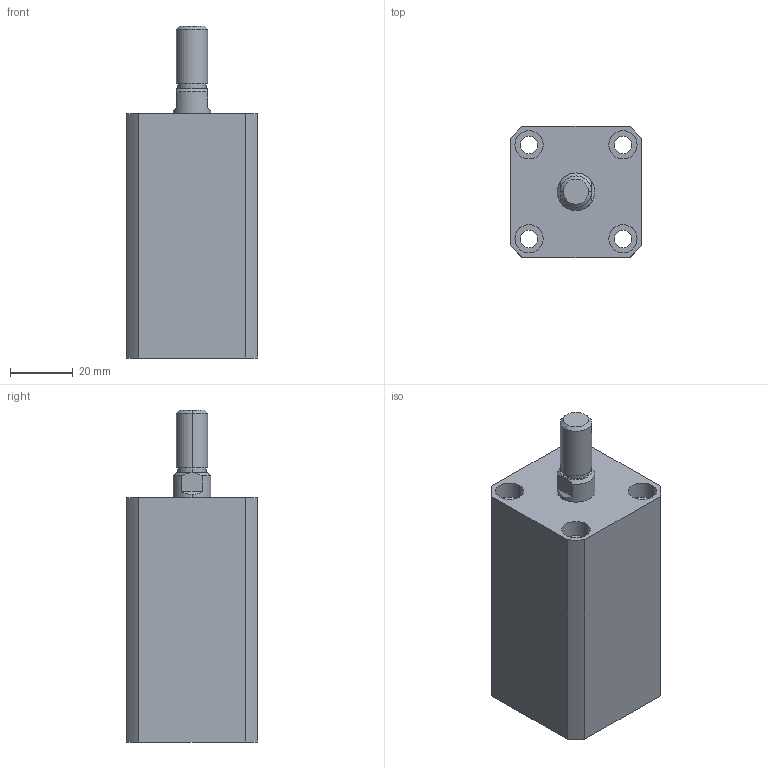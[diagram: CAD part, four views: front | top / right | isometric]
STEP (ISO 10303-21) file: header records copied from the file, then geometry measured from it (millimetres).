
FILE_DESCRIPTION (( 'STEP AP203' ), '1' );
FILE_NAME ('HTB-SDMB20-35W.STEP', '2019-10-08T11:56:20', ( '微软用户' ), ( '微软中国' ), 'SwSTEP 2.0', 'SolidWorks 2012', '' );
FILE_SCHEMA (( 'CONFIG_CONTROL_DESIGN' ));
Length unit declared in the file: millimetre
Products named in the file (3): HTB-SDMB20-35W活塞杆; HTB-SDMB20-35W; HTB-SDMB20-35掛极
Assembly tree (2 placements, depth 2):
  HTB-SDMB20-35W
    HTB-SDMB20-35掛极
    HTB-SDMB20-35W活塞杆
Bounding box: 42 x 42 x 106 mm (x, y, z)
Volume: 120909.4 mm3; surface area: 30619.2 mm2
Topology: 2 solids, 2 shells, 140 faces, 332 edges, 218 vertices
Faces by surface type: plane 66, cylinder 48, bspline 16, torus 6, cone 4
Entity records: 5129 total; most frequent: CARTESIAN_POINT 1587, ORIENTED_EDGE 664, DIRECTION 662, EDGE_CURVE 332, AXIS2_PLACEMENT_3D 241, VERTEX_POINT 218, VECTOR 180, LINE 180
